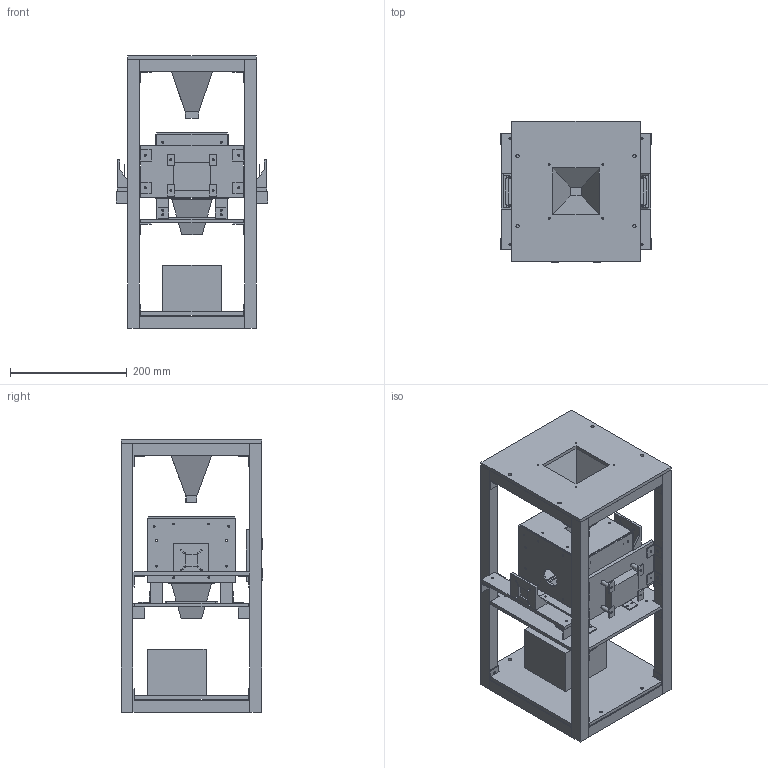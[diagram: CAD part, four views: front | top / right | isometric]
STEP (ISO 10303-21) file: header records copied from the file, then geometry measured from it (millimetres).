
FILE_DESCRIPTION(('Open CASCADE Model'),'2;1');
FILE_NAME('Open CASCADE Shape Model','2026-10-24T02:30:05',('Author'),( 'Open CASCADE'),'Open CASCADE STEP processor 7.8','Open CASCADE 7.8' ,'Unknown');
FILE_SCHEMA(('AUTOMOTIVE_DESIGN { 1 0 10303 214 1 1 1 1 }'));
Length unit declared in the file: millimetre
Products named in the file (93): H3_P6_MANUAL_MECHANICAL_REFERENCE; P13; T01; T02; T03; T04; T05; T06; T07; T08; T09; T10; T11; T12; W03; A01; A02; A03; A04; A09; A10; A11; A12; BCL1; BST1; BCL2; BST2; BCL3; BST3; BCL4; BST4; FC_X_011; FC_Y_011; FC_X_010; FC_Y_010; FC_X_001; FC_Y_001; FC_X_000; FC_Y_000; FC_X_111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
Assembly tree (92 placements, depth 2):
  H3_P6_MANUAL_MECHANICAL_REFERENCE
    P13
    T01
    T02
    T03
    T04
    T05
    T06
    T07
    T08
    T09
    T10
    T11
    T12
    W03
    A01
    A02
    A03
    A04
    A09
    A10
    A11
    A12
    BCL1
    BST1
    BCL2
    BST2
    BCL3
    BST3
    BCL4
    BST4
    FC_X_011
    FC_Y_011
    FC_X_010
    FC_Y_010
    FC_X_001
    FC_Y_001
    FC_X_000
    FC_Y_000
    FC_X_111
    FC_Y_111
    FC_X_110
    FC_Y_110
    FC_X_101
    FC_Y_101
    FC_X_100
    FC_Y_100
    H01
    H21
    W01
    BP1
    BP2
    BP3
    BP4
    W02
    W06
    P11
    LA_FL
    LF_FL
    LA_FR
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Bounding box: 260 x 242 x 466 mm (x, y, z)
Volume: 3657239.7 mm3; surface area: 1144415.2 mm2
Topology: 92 solids, 92 shells, 1014 faces, 2498 edges, 1664 vertices
Faces by surface type: plane 744, cylinder 250, bspline 20
Full cylindrical faces by diameter (mm): 3.2 x4, 3.4 x148, 5.5 x56, 7 x4, 32 x2
Entity records: 64494 total; most frequent: CARTESIAN_POINT 10921, DIRECTION 9810, LINE 6158, VECTOR 6158, ORIENTED_EDGE 4996, PCURVE 4996, DEFINITIONAL_REPRESENTATION 4996, EDGE_CURVE 2498
